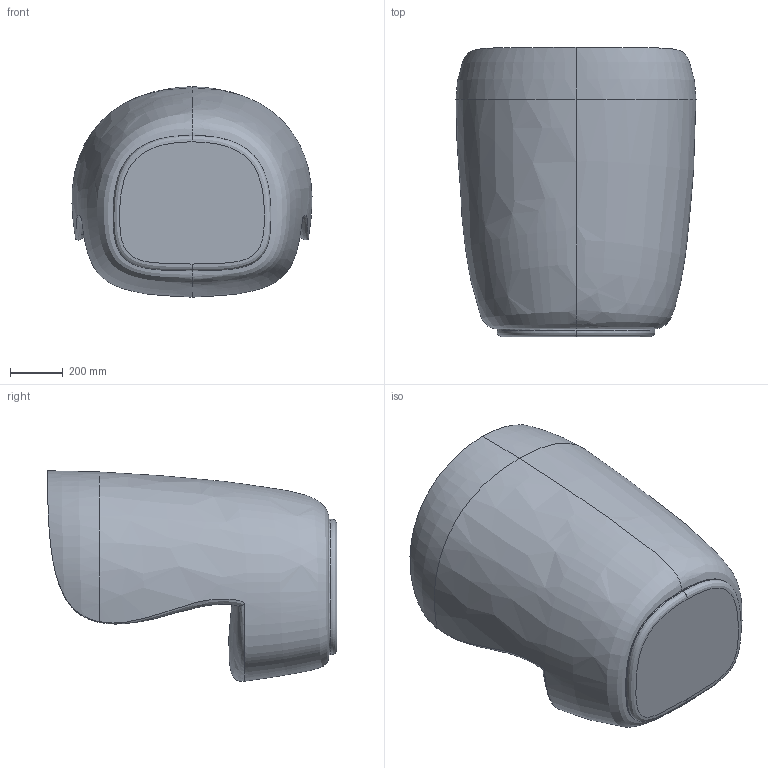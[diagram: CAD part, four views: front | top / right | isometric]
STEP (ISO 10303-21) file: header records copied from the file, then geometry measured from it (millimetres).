
FILE_DESCRIPTION (( 'STEP AP214' ), '1' );
FILE_NAME ('150720 - Stay High Back with Pillow.STEP', '2020-07-21T09:45:14', ( '' ), ( '' ), 'SwSTEP 2.0', 'SolidWorks 2019', '' );
FILE_SCHEMA (( 'AUTOMOTIVE_DESIGN' ));
Length unit declared in the file: millimetre
Products named in the file (3): 150720 - Stay High Back with Pillow; 140720 - Stay High back; 140720 - Stay High back - pillow 2
Assembly tree (2 placements, depth 2):
  150720 - Stay High Back with Pillow
    140720 - Stay High back
    140720 - Stay High back - pillow 2
Bounding box: 913.5 x 1101.66 x 800.69 mm (x, y, z)
Volume: 16089200.9 mm3; surface area: 4594548.3 mm2
Topology: 1 solids, 3 shells, 37 faces, 87 edges, 51 vertices
Faces by surface type: bspline 32, plane 5
Entity records: 15280 total; most frequent: CARTESIAN_POINT 14605, ORIENTED_EDGE 162, EDGE_CURVE 83, B_SPLINE_CURVE_WITH_KNOTS 75, VERTEX_POINT 51, ADVANCED_FACE 37, FACE_OUTER_BOUND 37, EDGE_LOOP 37
